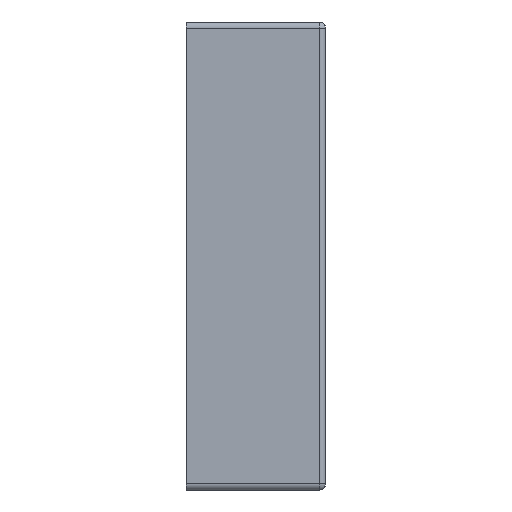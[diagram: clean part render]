
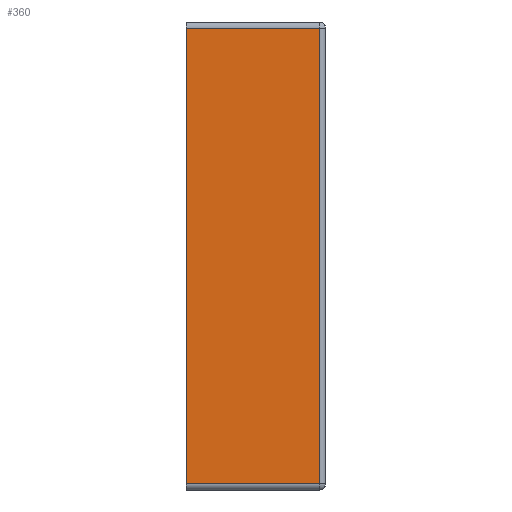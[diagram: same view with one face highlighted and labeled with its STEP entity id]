
A CAD part, left-side view. The second image highlights one B-rep face of the part: STEP entity #360.
In plain terms, the highlighted planar face has unit normal (-1, 0, 0).
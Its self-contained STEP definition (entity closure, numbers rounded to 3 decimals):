
#360=ADVANCED_FACE('',(#613),#523,.T.);
#523=PLANE('',#2546);
#613=FACE_OUTER_BOUND('',#753,.T.);
#753=EDGE_LOOP('',(#1017,#1018,#1019,#1020));
#1017=ORIENTED_EDGE('',*,*,#1898,.T.);
#1018=ORIENTED_EDGE('',*,*,#1899,.T.);
#1019=ORIENTED_EDGE('',*,*,#1885,.F.);
#1020=ORIENTED_EDGE('',*,*,#1900,.T.);
#1664=VERTEX_POINT('',#3610);
#1665=VERTEX_POINT('',#3612);
#1675=VERTEX_POINT('',#3636);
#1676=VERTEX_POINT('',#3637);
#1885=EDGE_CURVE('',#1664,#1665,#2217,.T.);
#1898=EDGE_CURVE('',#1675,#1676,#2223,.T.);
#1899=EDGE_CURVE('',#1676,#1665,#2224,.T.);
#1900=EDGE_CURVE('',#1664,#1675,#2225,.T.);
#2217=LINE('',#3611,#2393);
#2223=LINE('',#3635,#2399);
#2224=LINE('',#3638,#2400);
#2225=LINE('',#3639,#2401);
#2393=VECTOR('',#2862,1.);
#2399=VECTOR('',#2884,1.);
#2400=VECTOR('',#2885,1.);
#2401=VECTOR('',#2886,1.);
#2546=AXIS2_PLACEMENT_3D('',#3640,#2887,#2888);
#2862=DIRECTION('',(0.,0.,1.));
#2884=DIRECTION('',(0.,0.,1.));
#2885=DIRECTION('',(0.,1.,0.));
#2886=DIRECTION('',(0.,-1.,0.));
#2887=DIRECTION('',(-1.,0.,0.));
#2888=DIRECTION('',(0.,0.,1.));
#3610=CARTESIAN_POINT('',(-100.85,17.25,-164.8));
#3611=CARTESIAN_POINT('',(-100.85,17.25,-108.3));
#3612=CARTESIAN_POINT('',(-100.85,17.25,-51.8));
#3635=CARTESIAN_POINT('',(-100.85,-15.75,-108.3));
#3636=CARTESIAN_POINT('',(-100.85,-15.75,-164.8));
#3637=CARTESIAN_POINT('',(-100.85,-15.75,-51.8));
#3638=CARTESIAN_POINT('',(-100.85,17.25,-51.8));
#3639=CARTESIAN_POINT('',(-100.85,-17.25,-164.8));
#3640=CARTESIAN_POINT('',(-100.85,17.25,-108.3));
